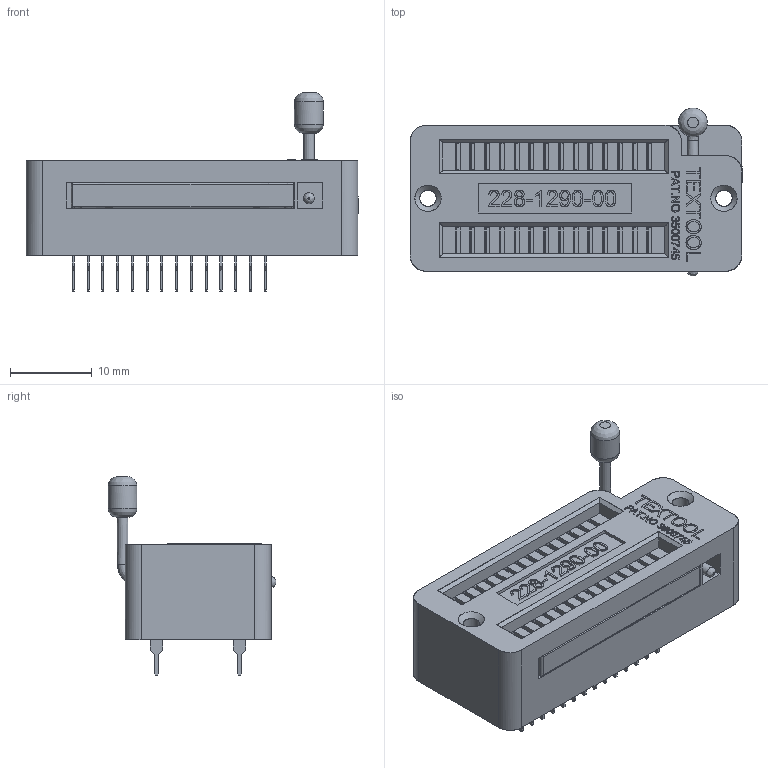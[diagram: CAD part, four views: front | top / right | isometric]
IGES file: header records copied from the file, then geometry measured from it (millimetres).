
Global section: file name: C:\Users\NemaPet\Desktop\z2.igs; native system: Rhinoceros ( Oct 24 2012 ); preprocessor: Trout Lake IGES 012 Oct 24 2012; date: 141105.071312; units: millimetre
Bounding box: 40.5 x 20.46 x 24.21 mm (x, y, z)
Surface area: 5745.9 mm2 (no closed solid volume)
Topology: 0 solids, 0 shells, 1120 faces, 7299 edges, 7274 vertices
Faces by surface type: bspline 1120
